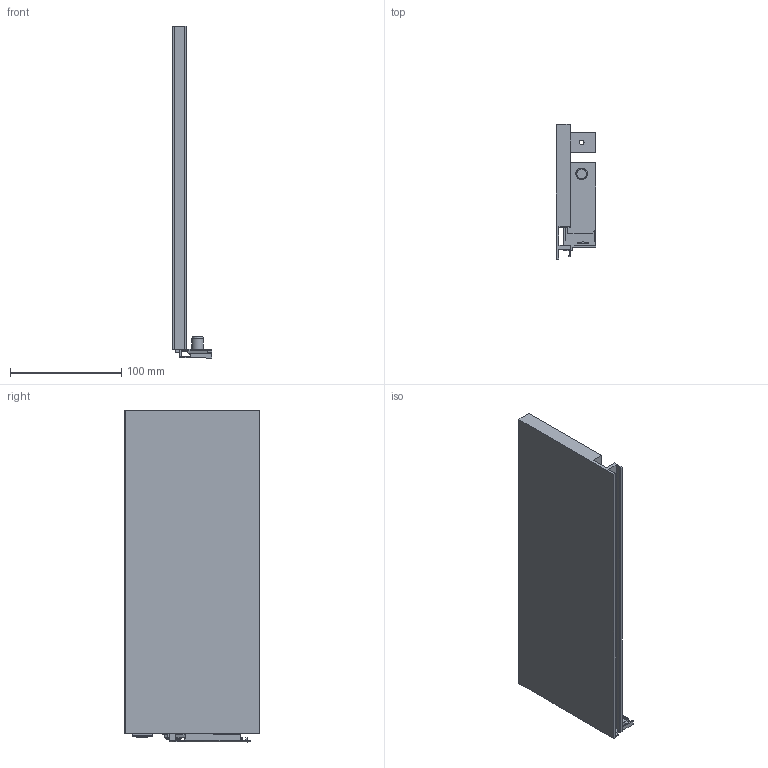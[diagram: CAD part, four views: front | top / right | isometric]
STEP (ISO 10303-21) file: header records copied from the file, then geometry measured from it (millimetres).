
FILE_DESCRIPTION (( 'STEP AP214' ), '1' );
FILE_NAME ('Vionaro_Alu-Zarge_H121_NL300_LI.STEP', '2014-08-18T11:15:45', ( '' ), ( '' ), 'SwSTEP 2.0', 'SolidWorks 2013', '' );
FILE_SCHEMA (( 'AUTOMOTIVE_DESIGN' ));
Length unit declared in the file: millimetre
Products named in the file (1): Vionaro_Alu-Zarge_H121_NL300_LI
Bounding box: 35.61 x 121 x 297.9 mm (x, y, z)
Volume: 389087.6 mm3; surface area: 100342.3 mm2
Topology: 1 solids, 1 shells, 112 faces, 299 edges, 196 vertices
Faces by surface type: plane 88, cylinder 20, cone 4
Entity records: 3491 total; most frequent: CARTESIAN_POINT 614, ORIENTED_EDGE 598, DIRECTION 569, EDGE_CURVE 299, LINE 251, VECTOR 251, VERTEX_POINT 196, AXIS2_PLACEMENT_3D 159
